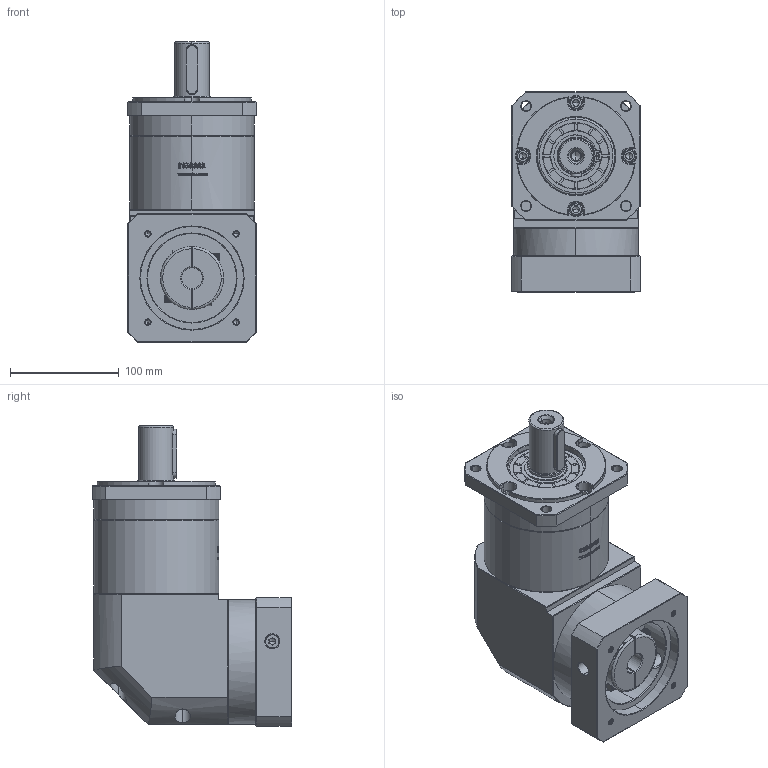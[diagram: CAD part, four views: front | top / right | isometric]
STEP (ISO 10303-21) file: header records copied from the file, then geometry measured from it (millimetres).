
FILE_DESCRIPTION (( 'STEP AP214' ), '1' );
FILE_NAME ('ZFR120A-D32-L2-19-95-115-M6.step', '2023-03-08T08:25:27', ( '' ), ( '' ), 'SwSTEP 2.0', 'SolidWorks 2016', '' );
FILE_SCHEMA (( 'AUTOMOTIVE_DESIGN' ));
Length unit declared in the file: millimetre
Products named in the file (1): ZFR120A-D32-L2-19-95-115-M6
Bounding box: 118 x 183.9 x 276.5 mm (x, y, z)
Volume: 3111377.2 mm3; surface area: 247209.6 mm2
Topology: 6 solids, 6 shells, 2858 faces, 7639 edges, 4925 vertices
Faces by surface type: plane 1483, bspline 610, cylinder 419, cone 338, torus 8
Entity records: 158492 total; most frequent: CARTESIAN_POINT 61533, ORIENTED_EDGE 15218, DIRECTION 11076, EDGE_CURVE 7609, VERTEX_POINT 4925, LINE 4730, VECTOR 4730, AXIS2_PLACEMENT_3D 3173
